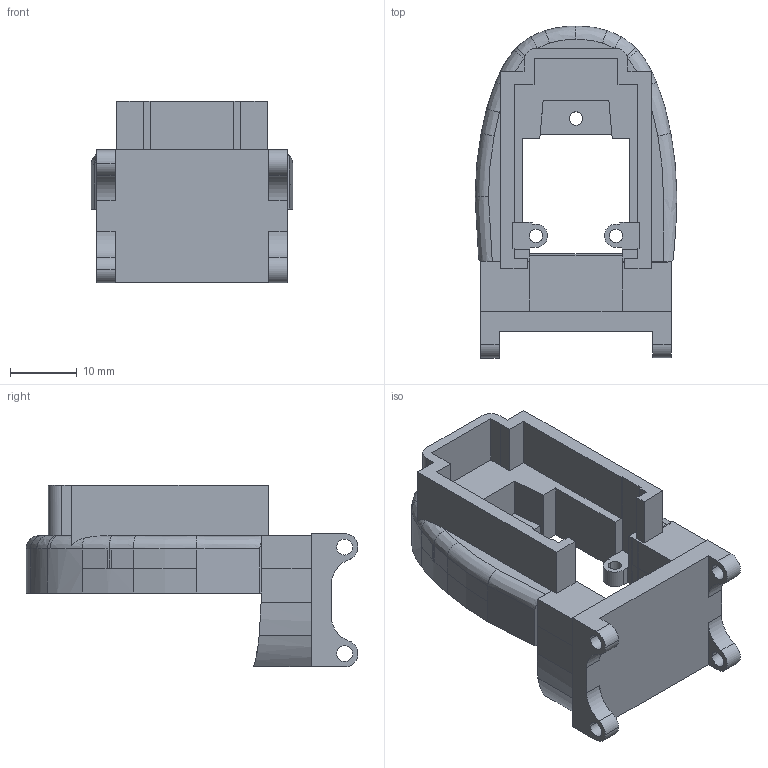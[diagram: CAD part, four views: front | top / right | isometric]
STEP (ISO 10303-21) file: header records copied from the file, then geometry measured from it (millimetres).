
FILE_DESCRIPTION (( 'STEP AP214' ), '1' );
FILE_NAME ('Index.STEP', '2026-09-17T09:54:37', ( '' ), ( '' ), 'SwSTEP 2.0', 'SolidWorks 2024', '' );
FILE_SCHEMA (( 'AUTOMOTIVE_DESIGN' ));
Length unit declared in the file: millimetre
Products named in the file (1): Index
Bounding box: 30.27 x 49.8 x 27.31 mm (x, y, z)
Volume: 9651.1 mm3; surface area: 6959.5 mm2
Topology: 2 solids, 2 shells, 220 faces, 600 edges, 382 vertices
Faces by surface type: plane 136, bspline 50, cylinder 32, sphere 2
Entity records: 8126 total; most frequent: CARTESIAN_POINT 2882, ORIENTED_EDGE 1196, DIRECTION 897, EDGE_CURVE 598, VECTOR 395, LINE 395, VERTEX_POINT 382, AXIS2_PLACEMENT_3D 251
